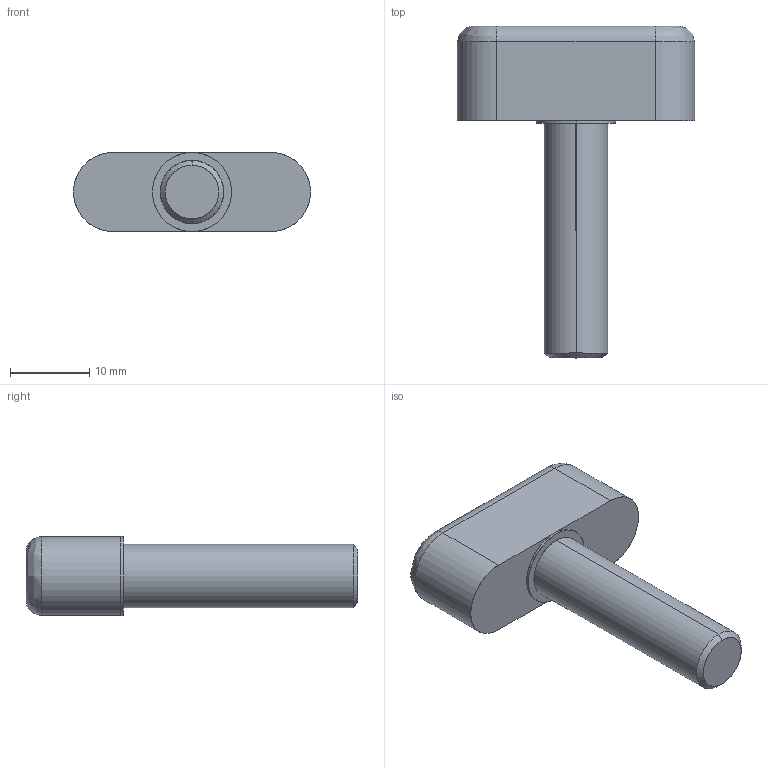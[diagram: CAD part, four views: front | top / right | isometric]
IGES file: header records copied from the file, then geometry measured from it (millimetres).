
Start section: SolidWorks IGES file using analytic representation for surfaces
Global section: file name: C:\Documents and Settings\IanO.IANOHOME\My Documents\Wix and Auto CAD Work\CAD Models\Parametric Models\Wix Models\3738\3738_IGES\Default.igs; native system: SolidWorks 2009; preprocessor: SolidWorks 2009; author: IanO; date: 091209.215635; units: millimetre
Bounding box: 30 x 42 x 10 mm (x, y, z)
Surface area: 2097.2 mm2 (no closed solid volume)
Topology: 0 solids, 0 shells, 19 faces, 256 edges, 256 vertices
Faces by surface type: revolution 10, bspline 9
